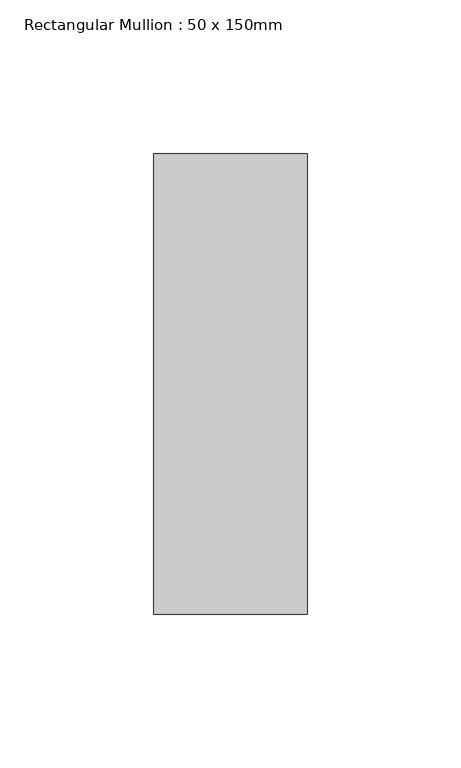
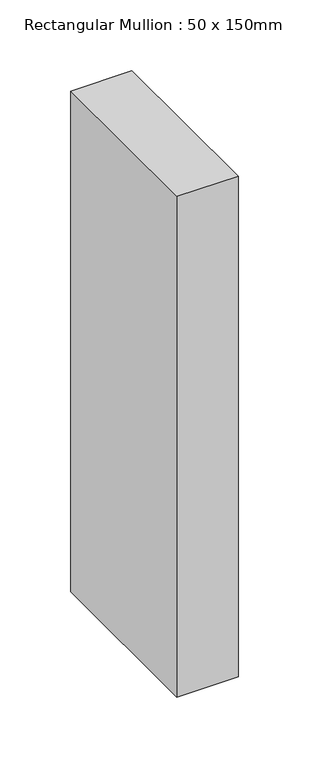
"""IFC4 building model written with IfcOpenShell, lengths in millimetres: member geometry, Rectangular Mullion : 50 x 150mm."""

from ifc_helpers import new_model, si_unit, frame, origin, place, context, project, spatial, polyline, outline, extrude, source, transform, mapped, element, save


def rectangular_mullion_50_x_150mm_ac182503(model_context):
    return source(origin(), model_context, "Body", "SweptSolid", [
        extrude(outline(polyline([(25.0, 75.0), (25.0, -75.0), (-25.0, -75.0), (-25.0, 75.0), (25.0, 75.0)])), frame((0.0, 0.0, -432.2), z_axis=(0.0, 0.0, 1.0), x_axis=(1.0, 0.0, 0.0)), (0.0, 0.0, 1.0), 432.2),
    ])


if __name__ == "__main__":
    model = new_model("IFC4")
    model_context = context("Model", 3, world=origin())
    ifc_project = project(units=[si_unit("LENGTHUNIT", "METRE", prefix="MILLI")], contexts=[model_context])
    site = spatial("IfcSite", under=ifc_project)
    building = spatial("IfcBuilding", under=site)
    placement = place(None, origin())
    rectangular_mullion_50_x_150mm_shape = rectangular_mullion_50_x_150mm_ac182503(model_context)
    element("IfcMember", 1, ObjectType="Rectangular Mullion : 50 x 150mm", at=placement, inside=building, context=model_context, shape_type="MappedRepresentation", body=[
        mapped(rectangular_mullion_50_x_150mm_shape, transform((0.0, 0.0, 0.0), x_axis=(1.0, 0.0, 0.0), y_axis=(0.0, 1.0, 0.0), z_axis=(0.0, 0.0, 1.0))),
    ])
    save(model, "model.ifc")
